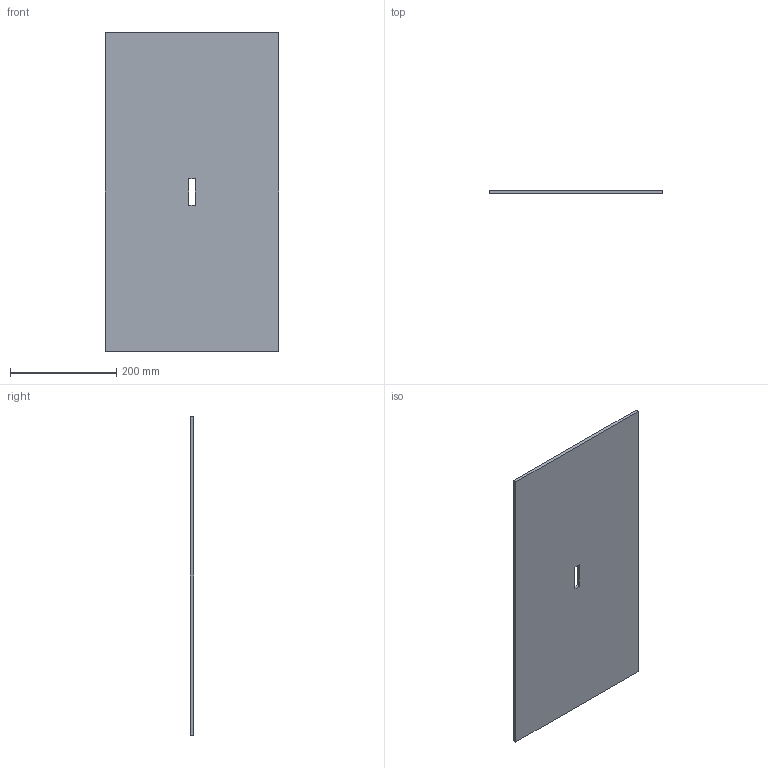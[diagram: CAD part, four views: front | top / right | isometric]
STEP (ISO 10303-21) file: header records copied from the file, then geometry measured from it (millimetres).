
FILE_DESCRIPTION(('Open CASCADE Model'),'2;1');
FILE_NAME('Open CASCADE Shape Model','2026-10-16T18:52:00',('Author'),( 'Open CASCADE'),'Open CASCADE STEP processor 7.8','Open CASCADE 7.8' ,'Unknown');
FILE_SCHEMA(('AUTOMOTIVE_DESIGN { 1 0 10303 214 1 1 1 1 }'));
Length unit declared in the file: millimetre
Products named in the file (1): Open CASCADE STEP translator 7.8 1
Bounding box: 326 x 6 x 600 mm (x, y, z)
Volume: 1170000 mm3; surface area: 401856 mm2
Topology: 1 solids, 1 shells, 10 faces, 24 edges, 16 vertices
Faces by surface type: plane 10
Entity records: 598 total; most frequent: CARTESIAN_POINT 115, DIRECTION 78, LINE 56, VECTOR 56, ORIENTED_EDGE 48, PCURVE 48, DEFINITIONAL_REPRESENTATION 48, EDGE_CURVE 24
